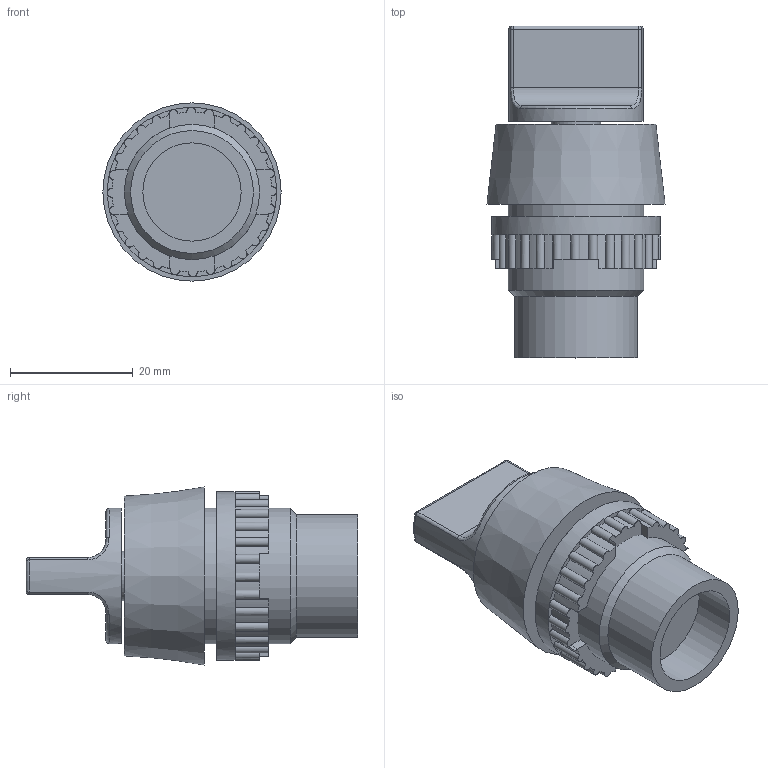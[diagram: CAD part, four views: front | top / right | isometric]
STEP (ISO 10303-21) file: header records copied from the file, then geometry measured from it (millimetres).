
FILE_DESCRIPTION(/* description */ ('Unknown'),/* implementation_level */ '2;1');
FILE_NAME(/* name */ 'BA 227 01',/* time_stamp */ '2018-03-22T14:31:05+01:00',/* author */ ('Unknown'),/* organization */ ('Unknown'),/* preprocessor_version */ 'ST-DEVELOPER v16.7',/* originating_system */ 'DEX',/* authorisation */ $);
FILE_SCHEMA (('AUTOMOTIVE_DESIGN {1 0 10303 214 3 1 1}'));
Length unit declared in the file: millimetre
Products named in the file (3): BA 227 01; BA 227 01 Mutter
Assembly tree (2 placements, depth 2):
  BA 227 01
    BA 227 01 Mutter
    BA 227 01
Bounding box: 29 x 54 x 29 mm (x, y, z)
Volume: 19704.9 mm3; surface area: 7578.6 mm2
Topology: 2 solids, 2 shells, 149 faces, 375 edges, 231 vertices
Faces by surface type: cylinder 76, plane 57, cone 4, torus 4, bspline 4, sphere 4
Full cylindrical faces by diameter (mm): 8 x1, 16 x1, 20 x1, 20.376 x1, 22 x3, 27.5 x1
Entity records: 5596 total; most frequent: DIRECTION 870, CARTESIAN_POINT 858, ORIENTED_EDGE 706, AXIS2_PLACEMENT_3D 377, EDGE_CURVE 353, CIRCLE 229, VERTEX_POINT 225, EDGE_LOOP 168
